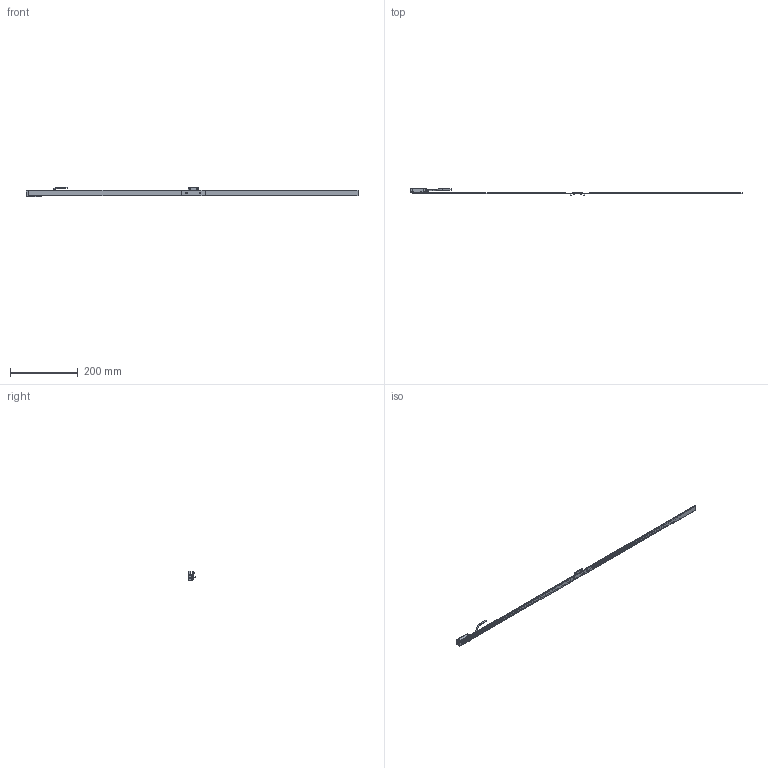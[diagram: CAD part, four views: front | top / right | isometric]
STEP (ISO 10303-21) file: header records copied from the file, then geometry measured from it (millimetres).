
FILE_DESCRIPTION(('Creo Elements/Direct Modeling STEP Export'),'2;1');
FILE_NAME('EXG_EXGA-940.stp','2017-01-13T12:38:25',(''),(''),'Creo Elements/Direct Modeling STEP processor for AP214 (Solid Model)','Creo Elements/Direct Modeling 18.1H 24-Oct-2015 (C) Parametric Technology GmbH','');
FILE_SCHEMA(('AUTOMOTIVE_DESIGN { 1 0 10303 214 1 1 1 1 }'));
Length unit declared in the file: millimetre
Products named in the file (4): CABEZA_REGLA_EXPOSED; Regla_64
Assembly tree (2 placements, depth 2):
  CABEZA_REGLA_EXPOSED
    CABEZA_REGLA_EXPOSED
  Regla_64
    Regla_64
Bounding box: 978 x 19.51 x 29.33 mm (x, y, z)
Volume: 44672.1 mm3; surface area: 66565.9 mm2
Topology: 2 solids, 4 shells, 508 faces, 1339 edges, 854 vertices
Faces by surface type: plane 255, cylinder 149, cone 88, torus 16
Entity records: 16964 total; most frequent: CARTESIAN_POINT 2901, ORIENTED_EDGE 2654, DIRECTION 2465, EDGE_CURVE 1327, VERTEX_POINT 854, AXIS2_PLACEMENT_3D 847, VECTOR 771, LINE 771
